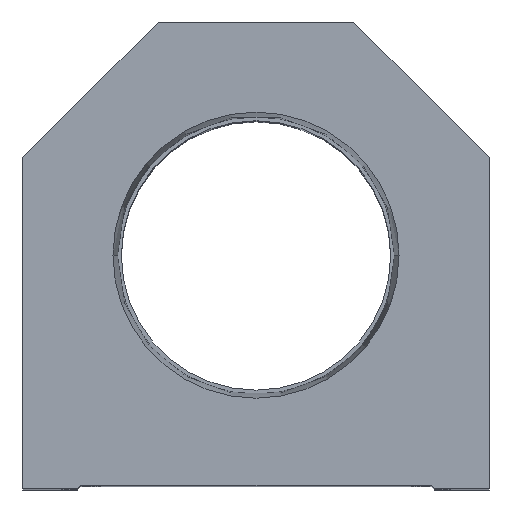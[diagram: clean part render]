
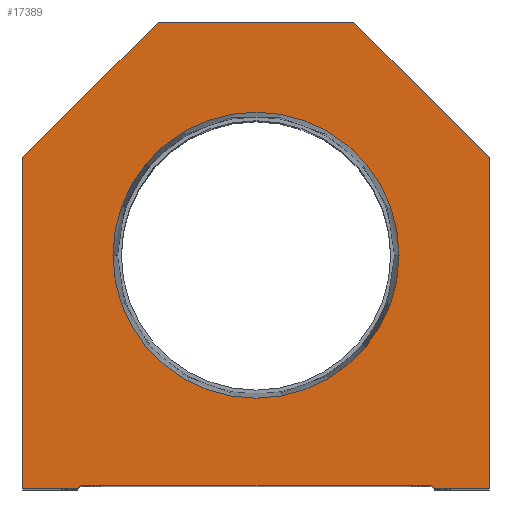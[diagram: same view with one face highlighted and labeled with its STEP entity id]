
A CAD part, top view. The second image highlights one B-rep face of the part: STEP entity #17389.
In plain terms, the highlighted planar face has unit normal (0, 0, 1).
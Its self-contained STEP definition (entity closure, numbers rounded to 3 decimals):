
#975 = EDGE_CURVE ( 'NONE', #13915, #15664, #14378, .T. ) ;
#984 = ORIENTED_EDGE ( 'NONE', *, *, #5003, .T. ) ;
#1140 = CIRCLE ( 'NONE', #2937, 23.374 ) ;
#1198 = CARTESIAN_POINT ( 'NONE',  ( 28.6, 0., 0. ) ) ;
#1309 = EDGE_CURVE ( 'NONE', #9032, #13915, #6323, .T. ) ;
#1393 = CARTESIAN_POINT ( 'NONE',  ( 16., 76.2, 0. ) ) ;
#1606 = CARTESIAN_POINT ( 'NONE',  ( 23.374, 38.1, 0. ) ) ;
#1619 = VERTEX_POINT ( 'NONE', #17385 ) ;
#1640 = DIRECTION ( 'NONE',  ( 1., 0., 0. ) ) ;
#1846 = CARTESIAN_POINT ( 'NONE',  ( 0., 38.1, 0. ) ) ;
#2115 = DIRECTION ( 'NONE',  ( 1., 0., 0. ) ) ;
#2181 = ORIENTED_EDGE ( 'NONE', *, *, #4276, .T. ) ;
#2240 = VERTEX_POINT ( 'NONE', #3618 ) ;
#2524 = VECTOR ( 'NONE', #15833, 1000. ) ;
#2568 = CARTESIAN_POINT ( 'NONE',  ( 0., 0., 0. ) ) ;
#2677 = EDGE_CURVE ( 'NONE', #4354, #7200, #4953, .T. ) ;
#2736 = LINE ( 'NONE', #13827, #13521 ) ;
#2756 = VECTOR ( 'NONE', #9159, 1000. ) ;
#2915 = LINE ( 'NONE', #8199, #9951 ) ;
#2937 = AXIS2_PLACEMENT_3D ( 'NONE', #4686, #17538, #1640 ) ;
#2940 = DIRECTION ( 'NONE',  ( -0.707, 0.707, 0. ) ) ;
#3269 = CARTESIAN_POINT ( 'NONE',  ( 38.1, 0., 0. ) ) ;
#3484 = CARTESIAN_POINT ( 'NONE',  ( -28.6, 0.5, 0. ) ) ;
#3490 = EDGE_CURVE ( 'NONE', #16873, #1619, #1140, .T. ) ;
#3504 = CARTESIAN_POINT ( 'NONE',  ( 29.1, 0., 0. ) ) ;
#3618 = CARTESIAN_POINT ( 'NONE',  ( -29.1, 0., 0. ) ) ;
#4167 = DIRECTION ( 'NONE',  ( 0., -1., 0. ) ) ;
#4248 = CIRCLE ( 'NONE', #12871, 23.374 ) ;
#4269 = LINE ( 'NONE', #1198, #11597 ) ;
#4276 = EDGE_CURVE ( 'NONE', #11522, #9032, #5710, .T. ) ;
#4354 = VERTEX_POINT ( 'NONE', #14670 ) ;
#4414 = CARTESIAN_POINT ( 'NONE',  ( 38.1, 54.1, 0. ) ) ;
#4458 = LINE ( 'NONE', #10161, #2524 ) ;
#4568 = EDGE_CURVE ( 'NONE', #2240, #4354, #2915, .T. ) ;
#4686 = CARTESIAN_POINT ( 'NONE',  ( 0., 38.1, 0. ) ) ;
#4953 = LINE ( 'NONE', #3484, #2756 ) ;
#5003 = EDGE_CURVE ( 'NONE', #12689, #11522, #4458, .T. ) ;
#5017 = ORIENTED_EDGE ( 'NONE', *, *, #3490, .F. ) ;
#5559 = LINE ( 'NONE', #7031, #8358 ) ;
#5582 = VECTOR ( 'NONE', #2940, 1000. ) ;
#5710 = LINE ( 'NONE', #4414, #5582 ) ;
#6051 = DIRECTION ( 'NONE',  ( -1., 0., 0. ) ) ;
#6123 = CARTESIAN_POINT ( 'NONE',  ( 14.55, 14.55, 0. ) ) ;
#6323 = LINE ( 'NONE', #9134, #9226 ) ;
#6905 = PLANE ( 'NONE',  #10850 ) ;
#6951 = DIRECTION ( 'NONE',  ( 1., 0., 0. ) ) ;
#7031 = CARTESIAN_POINT ( 'NONE',  ( -38.1, 0., 0. ) ) ;
#7200 = VERTEX_POINT ( 'NONE', #12653 ) ;
#7481 = CARTESIAN_POINT ( 'NONE',  ( 38.1, 54.1, 0. ) ) ;
#7614 = ORIENTED_EDGE ( 'NONE', *, *, #4568, .T. ) ;
#7865 = LINE ( 'NONE', #6123, #16686 ) ;
#8199 = CARTESIAN_POINT ( 'NONE',  ( -14.55, 14.55, 0. ) ) ;
#8306 = EDGE_CURVE ( 'NONE', #7200, #11628, #7865, .T. ) ;
#8358 = VECTOR ( 'NONE', #4167, 1000. ) ;
#8938 = EDGE_CURVE ( 'NONE', #11628, #12689, #4269, .T. ) ;
#9032 = VERTEX_POINT ( 'NONE', #1393 ) ;
#9134 = CARTESIAN_POINT ( 'NONE',  ( 16., 76.2, 0. ) ) ;
#9159 = DIRECTION ( 'NONE',  ( 1., 0., 0. ) ) ;
#9226 = VECTOR ( 'NONE', #6051, 1000. ) ;
#9289 = ORIENTED_EDGE ( 'NONE', *, *, #16057, .F. ) ;
#9436 = DIRECTION ( 'NONE',  ( 1., 0., 0. ) ) ;
#9465 = ORIENTED_EDGE ( 'NONE', *, *, #2677, .T. ) ;
#9536 = DIRECTION ( 'NONE',  ( 0., 0., 1. ) ) ;
#9951 = VECTOR ( 'NONE', #14285, 1000. ) ;
#10161 = CARTESIAN_POINT ( 'NONE',  ( 38.1, 0., 0. ) ) ;
#10684 = DIRECTION ( 'NONE',  ( 0., 0., 1. ) ) ;
#10706 = VECTOR ( 'NONE', #14551, 1000. ) ;
#10847 = FACE_BOUND ( 'NONE', #14227, .T. ) ;
#10850 = AXIS2_PLACEMENT_3D ( 'NONE', #2568, #9536, #9436 ) ;
#11522 = VERTEX_POINT ( 'NONE', #7481 ) ;
#11597 = VECTOR ( 'NONE', #6951, 1000. ) ;
#11628 = VERTEX_POINT ( 'NONE', #3504 ) ;
#12323 = DIRECTION ( 'NONE',  ( 1., 0., 0. ) ) ;
#12653 = CARTESIAN_POINT ( 'NONE',  ( 28.6, 0.5, 0. ) ) ;
#12689 = VERTEX_POINT ( 'NONE', #3269 ) ;
#12871 = AXIS2_PLACEMENT_3D ( 'NONE', #1846, #10684, #2115 ) ;
#13294 = EDGE_CURVE ( 'NONE', #17767, #2240, #2736, .T. ) ;
#13521 = VECTOR ( 'NONE', #12323, 1000. ) ;
#13558 = ORIENTED_EDGE ( 'NONE', *, *, #13294, .T. ) ;
#13571 = DIRECTION ( 'NONE',  ( 0.707, -0.707, 0. ) ) ;
#13722 = ORIENTED_EDGE ( 'NONE', *, *, #8306, .T. ) ;
#13827 = CARTESIAN_POINT ( 'NONE',  ( -28.6, 0., 0. ) ) ;
#13915 = VERTEX_POINT ( 'NONE', #14729 ) ;
#14227 = EDGE_LOOP ( 'NONE', ( #5017, #9289 ) ) ;
#14285 = DIRECTION ( 'NONE',  ( 0.707, 0.707, 0. ) ) ;
#14378 = LINE ( 'NONE', #15853, #10706 ) ;
#14551 = DIRECTION ( 'NONE',  ( -0.707, -0.707, 0. ) ) ;
#14631 = ORIENTED_EDGE ( 'NONE', *, *, #8938, .T. ) ;
#14670 = CARTESIAN_POINT ( 'NONE',  ( -28.6, 0.5, 0. ) ) ;
#14729 = CARTESIAN_POINT ( 'NONE',  ( -16., 76.2, 0. ) ) ;
#15097 = ORIENTED_EDGE ( 'NONE', *, *, #975, .T. ) ;
#15271 = EDGE_CURVE ( 'NONE', #15664, #17767, #5559, .T. ) ;
#15411 = ORIENTED_EDGE ( 'NONE', *, *, #1309, .T. ) ;
#15463 = CARTESIAN_POINT ( 'NONE',  ( -38.1, 54.1, 0. ) ) ;
#15664 = VERTEX_POINT ( 'NONE', #15463 ) ;
#15824 = CARTESIAN_POINT ( 'NONE',  ( -38.1, 0., 0. ) ) ;
#15833 = DIRECTION ( 'NONE',  ( 0., 1., 0. ) ) ;
#15853 = CARTESIAN_POINT ( 'NONE',  ( -38.1, 54.1, 0. ) ) ;
#16057 = EDGE_CURVE ( 'NONE', #1619, #16873, #4248, .T. ) ;
#16532 = FACE_OUTER_BOUND ( 'NONE', #17000, .T. ) ;
#16686 = VECTOR ( 'NONE', #13571, 1000. ) ;
#16873 = VERTEX_POINT ( 'NONE', #1606 ) ;
#17000 = EDGE_LOOP ( 'NONE', ( #13558, #7614, #9465, #13722, #14631, #984, #2181, #15411, #15097, #17736 ) ) ;
#17385 = CARTESIAN_POINT ( 'NONE',  ( -23.374, 38.1, 0. ) ) ;
#17389 = ADVANCED_FACE ( 'NONE', ( #10847, #16532 ), #6905, .T. ) ;
#17538 = DIRECTION ( 'NONE',  ( 0., 0., 1. ) ) ;
#17736 = ORIENTED_EDGE ( 'NONE', *, *, #15271, .T. ) ;
#17767 = VERTEX_POINT ( 'NONE', #15824 ) ;
